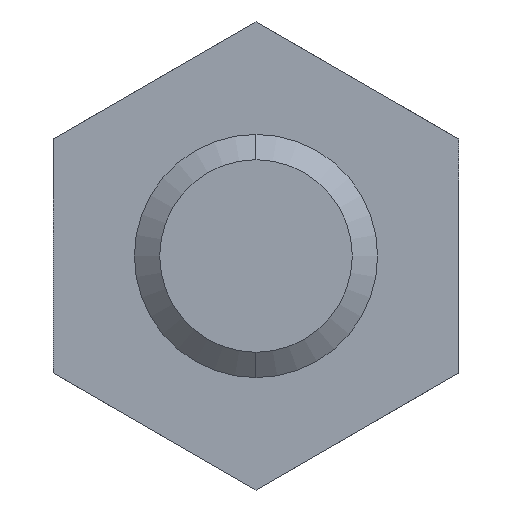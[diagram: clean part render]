
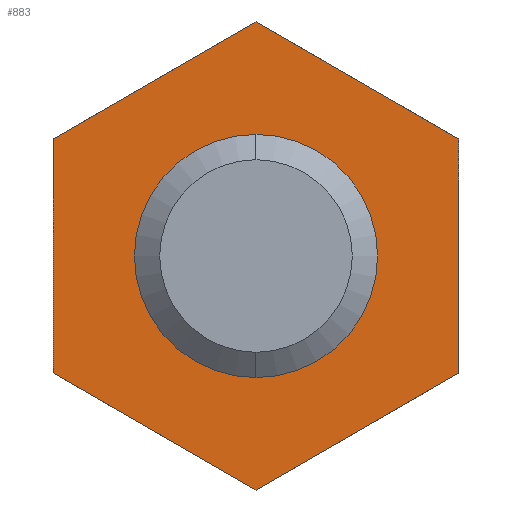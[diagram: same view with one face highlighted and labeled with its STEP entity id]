
A CAD part, front view. The second image highlights one B-rep face of the part: STEP entity #883.
In plain terms, the highlighted planar face has unit normal (0, -1, 0).
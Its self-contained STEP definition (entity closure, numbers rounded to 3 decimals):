
#369 = VERTEX_POINT ( 'NONE', #2189 ) ;
#418 = EDGE_CURVE ( 'NONE', #419, #369, #2272, .T. ) ;
#419 = VERTEX_POINT ( 'NONE', #2262 ) ;
#508 = EDGE_CURVE ( 'NONE', #1440, #1477, #2469, .T. ) ;
#863 = EDGE_CURVE ( 'NONE', #369, #419, #3052, .T. ) ;
#864 = EDGE_LOOP ( 'NONE', ( #865, #866, #867, #868, #869, #870 ) ) ;
#865 = ORIENTED_EDGE ( 'NONE', *, *, #1473, .T. ) ;
#866 = ORIENTED_EDGE ( 'NONE', *, *, #1476, .T. ) ;
#867 = ORIENTED_EDGE ( 'NONE', *, *, #1465, .T. ) ;
#868 = ORIENTED_EDGE ( 'NONE', *, *, #1450, .T. ) ;
#869 = ORIENTED_EDGE ( 'NONE', *, *, #1437, .T. ) ;
#870 = ORIENTED_EDGE ( 'NONE', *, *, #508, .T. ) ;
#883 = ADVANCED_FACE ( 'NONE', ( #3033, #3090 ), #3089, .T. ) ;
#884 = EDGE_LOOP ( 'NONE', ( #885, #886 ) ) ;
#885 = ORIENTED_EDGE ( 'NONE', *, *, #418, .T. ) ;
#886 = ORIENTED_EDGE ( 'NONE', *, *, #863, .T. ) ;
#1398 = VERTEX_POINT ( 'NONE', #4015 ) ;
#1405 = VERTEX_POINT ( 'NONE', #4073 ) ;
#1437 = EDGE_CURVE ( 'NONE', #1458, #1440, #4078, .T. ) ;
#1440 = VERTEX_POINT ( 'NONE', #4074 ) ;
#1450 = EDGE_CURVE ( 'NONE', #1467, #1458, #4111, .T. ) ;
#1458 = VERTEX_POINT ( 'NONE', #4143 ) ;
#1465 = EDGE_CURVE ( 'NONE', #1398, #1467, #4134, .T. ) ;
#1467 = VERTEX_POINT ( 'NONE', #4187 ) ;
#1473 = EDGE_CURVE ( 'NONE', #1477, #1405, #4182, .T. ) ;
#1476 = EDGE_CURVE ( 'NONE', #1405, #1398, #4174, .T. ) ;
#1477 = VERTEX_POINT ( 'NONE', #4170 ) ;
#2189 = CARTESIAN_POINT ( 'NONE',  ( 3., 25., 0. ) ) ;
#2262 = CARTESIAN_POINT ( 'NONE',  ( -3., 25., 0. ) ) ;
#2263 = DIRECTION ( 'NONE',  ( -1., 0., 0. ) ) ;
#2264 = DIRECTION ( 'NONE',  ( 0., 1., 0. ) ) ;
#2265 = CARTESIAN_POINT ( 'NONE',  ( 0., 25., 0. ) ) ;
#2266 = AXIS2_PLACEMENT_3D ( 'NONE', #2265, #2264, #2263 ) ;
#2272 = CIRCLE ( 'NONE', #2266, 3. ) ;
#2458 = DIRECTION ( 'NONE',  ( 0., 0., 1. ) ) ;
#2459 = VECTOR ( 'NONE', #2458, 1000. ) ;
#2460 = CARTESIAN_POINT ( 'NONE',  ( 5., 25., -2.887 ) ) ;
#2469 = LINE ( 'NONE', #2460, #2459 ) ;
#2877 = DIRECTION ( 'NONE',  ( 0., 0., -1. ) ) ;
#2878 = VECTOR ( 'NONE', #2877, 1000. ) ;
#3033 = FACE_BOUND ( 'NONE', #884, .T. ) ;
#3048 = DIRECTION ( 'NONE',  ( -1., 0., 0. ) ) ;
#3049 = DIRECTION ( 'NONE',  ( 0., 1., 0. ) ) ;
#3050 = CARTESIAN_POINT ( 'NONE',  ( 0., 25., 0. ) ) ;
#3051 = AXIS2_PLACEMENT_3D ( 'NONE', #3050, #3049, #3048 ) ;
#3052 = CIRCLE ( 'NONE', #3051, 3. ) ;
#3085 = DIRECTION ( 'NONE',  ( 1., 0., 0. ) ) ;
#3086 = DIRECTION ( 'NONE',  ( 0., -1., 0. ) ) ;
#3087 = CARTESIAN_POINT ( 'NONE',  ( -3., 25., 0. ) ) ;
#3088 = AXIS2_PLACEMENT_3D ( 'NONE', #3087, #3086, #3085 ) ;
#3089 = PLANE ( 'NONE',  #3088 ) ;
#3090 = FACE_OUTER_BOUND ( 'NONE', #864, .T. ) ;
#4015 = CARTESIAN_POINT ( 'NONE',  ( -5., 25., 2.887 ) ) ;
#4073 = CARTESIAN_POINT ( 'NONE',  ( 0., 25., 5.774 ) ) ;
#4074 = CARTESIAN_POINT ( 'NONE',  ( 5., 25., -2.887 ) ) ;
#4075 = DIRECTION ( 'NONE',  ( 0.866, 0., 0.5 ) ) ;
#4076 = VECTOR ( 'NONE', #4075, 1000. ) ;
#4077 = CARTESIAN_POINT ( 'NONE',  ( 0., 25., -5.774 ) ) ;
#4078 = LINE ( 'NONE', #4077, #4076 ) ;
#4102 = DIRECTION ( 'NONE',  ( 0.866, 0., -0.5 ) ) ;
#4103 = VECTOR ( 'NONE', #4102, 1000. ) ;
#4104 = CARTESIAN_POINT ( 'NONE',  ( -5., 25., -2.887 ) ) ;
#4111 = LINE ( 'NONE', #4104, #4103 ) ;
#4132 = CARTESIAN_POINT ( 'NONE',  ( -5., 25., 2.887 ) ) ;
#4134 = LINE ( 'NONE', #4132, #2878 ) ;
#4143 = CARTESIAN_POINT ( 'NONE',  ( 0., 25., -5.774 ) ) ;
#4170 = CARTESIAN_POINT ( 'NONE',  ( 5., 25., 2.887 ) ) ;
#4171 = DIRECTION ( 'NONE',  ( -0.866, 0., -0.5 ) ) ;
#4172 = VECTOR ( 'NONE', #4171, 1000. ) ;
#4173 = CARTESIAN_POINT ( 'NONE',  ( 0., 25., 5.774 ) ) ;
#4174 = LINE ( 'NONE', #4173, #4172 ) ;
#4179 = DIRECTION ( 'NONE',  ( -0.866, 0., 0.5 ) ) ;
#4180 = VECTOR ( 'NONE', #4179, 1000. ) ;
#4181 = CARTESIAN_POINT ( 'NONE',  ( 5., 25., 2.887 ) ) ;
#4182 = LINE ( 'NONE', #4181, #4180 ) ;
#4187 = CARTESIAN_POINT ( 'NONE',  ( -5., 25., -2.887 ) ) ;
